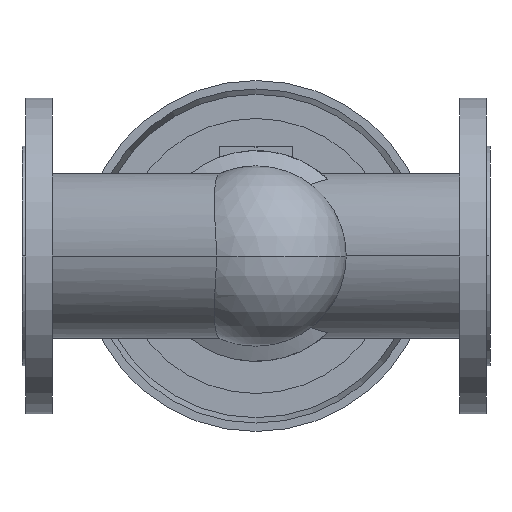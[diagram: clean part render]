
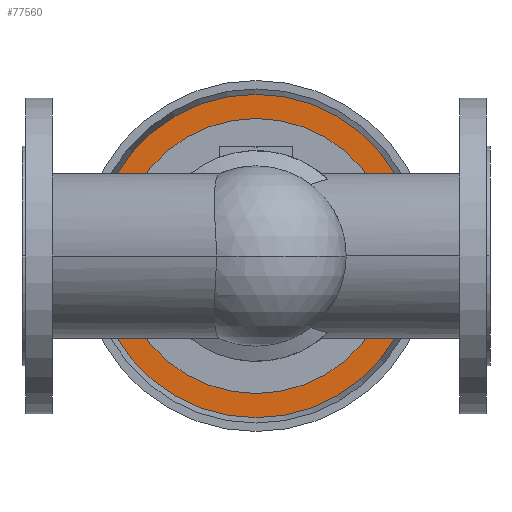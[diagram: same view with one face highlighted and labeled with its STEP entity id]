
A CAD part, front view. The second image highlights one B-rep face of the part: STEP entity #77560.
In plain terms, the highlighted planar face has unit normal (0, -1, 0).
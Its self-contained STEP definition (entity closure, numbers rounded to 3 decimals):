
#77010=CARTESIAN_POINT('',(338.198,531.9,0.));
#77020=VERTEX_POINT('',#77010);
#77100=CARTESIAN_POINT('',(61.802,531.9,0.));
#77110=VERTEX_POINT('',#77100);
#77140=CARTESIAN_POINT('',(200.,531.9,0.));
#77150=DIRECTION('',(0.,1.,0.));
#77160=DIRECTION('',(-1.,0.,0.));
#77170=AXIS2_PLACEMENT_3D('',#77140,#77150,#77160);
#77180=CIRCLE('',#77170,138.198);
#77190=EDGE_CURVE('',#77020,#77110,#77180,.T.);
#77310=CARTESIAN_POINT('',(74.901,531.9,0.))
;
#77320=DIRECTION('',(0.,-1.,0.));
#77330=DIRECTION('',(1.,0.,0.));
#77340=AXIS2_PLACEMENT_3D('',#77310,#77320,#77330);
#77350=PLANE('',#77340);
#77360=EDGE_CURVE('',#77110,#77020,#77180,.T.);
#77370=ORIENTED_EDGE('',*,*,#77360,.F.);
#77380=ORIENTED_EDGE('',*,*,#77190,.F.);
#77390=EDGE_LOOP('',(#77380,#77370));
#77400=FACE_OUTER_BOUND('',#77390,.T.);
#77410=CARTESIAN_POINT('',(200.,531.9,0.));
#77420=DIRECTION('',(0.,1.,0.));
#77430=DIRECTION('',(-1.,0.,0.));
#77440=AXIS2_PLACEMENT_3D('',#77410,#77420,#77430);
#77450=CIRCLE('',#77440,112.);
#77460=CARTESIAN_POINT('',(312.,531.9,0.));
#77470=VERTEX_POINT('',#77460);
#77480=CARTESIAN_POINT('',(88.,531.9,0.));
#77490=VERTEX_POINT('',#77480);
#77500=EDGE_CURVE('',#77470,#77490,#77450,.T.);
#77510=ORIENTED_EDGE('',*,*,#77500,.T.);
#77520=EDGE_CURVE('',#77490,#77470,#77450,.T.);
#77530=ORIENTED_EDGE('',*,*,#77520,.T.);
#77540=EDGE_LOOP('',(#77530,#77510));
#77550=FACE_BOUND('',#77540,.T.);
#77560=ADVANCED_FACE('',(#77400,#77550),#77350,.T.);
